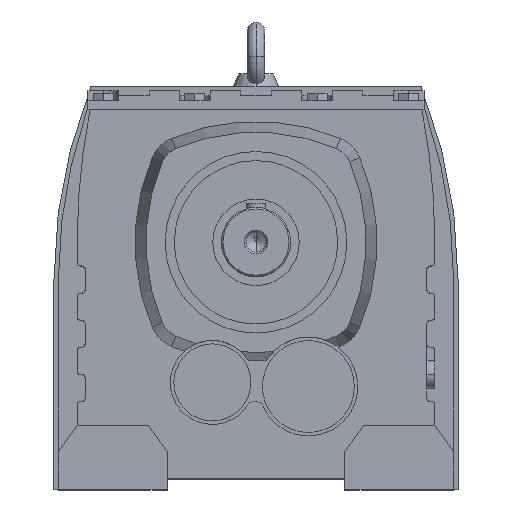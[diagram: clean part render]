
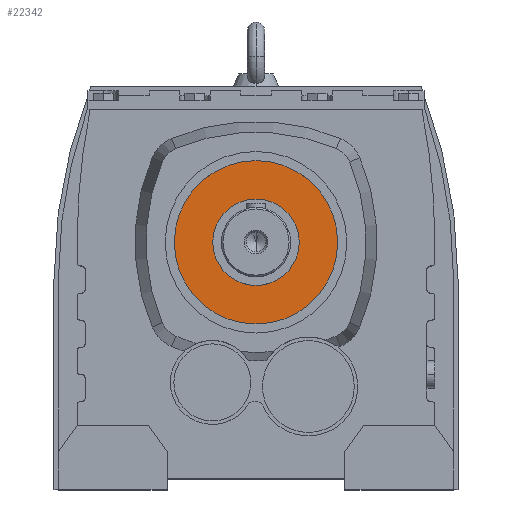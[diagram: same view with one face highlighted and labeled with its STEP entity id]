
A CAD part, top view. The second image highlights one B-rep face of the part: STEP entity #22342.
In plain terms, the highlighted planar face has unit normal (0, 0, 1).
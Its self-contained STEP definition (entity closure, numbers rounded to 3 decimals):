
#22055 = CYLINDRICAL_SURFACE('',#22056,82.688);
#22056 = AXIS2_PLACEMENT_3D('',#22057,#22058,#22059);
#22057 = CARTESIAN_POINT('',(0.,20.4,495.));
#22058 = DIRECTION('',(0.,0.,1.));
#22059 = DIRECTION('',(0.,-1.,0.));
#22085 = CYLINDRICAL_SURFACE('',#22086,82.688);
#22086 = AXIS2_PLACEMENT_3D('',#22087,#22088,#22089);
#22087 = CARTESIAN_POINT('',(0.,20.4,495.));
#22088 = DIRECTION('',(0.,0.,1.));
#22089 = DIRECTION('',(0.,-1.,0.));
#22247 = EDGE_CURVE('',#22248,#22250,#22252,.T.);
#22248 = VERTEX_POINT('',#22249);
#22249 = CARTESIAN_POINT('',(0.,-62.288,341.));
#22250 = VERTEX_POINT('',#22251);
#22251 = CARTESIAN_POINT('',(0.,103.088,341.));
#22252 = SURFACE_CURVE('',#22253,(#22258,#22264),.PCURVE_S1.);
#22253 = CIRCLE('',#22254,82.688);
#22254 = AXIS2_PLACEMENT_3D('',#22255,#22256,#22257);
#22255 = CARTESIAN_POINT('',(0.,20.4,341.));
#22256 = DIRECTION('',(0.,0.,-1.));
#22257 = DIRECTION('',(-1.,0.,0.));
#22258 = PCURVE('',#22085,#22259);
#22259 = DEFINITIONAL_REPRESENTATION('',(#22260),#22263);
#22260 = B_SPLINE_CURVE_WITH_KNOTS('',1,(#22261,#22262),.UNSPECIFIED.,
  .F.,.F.,(2,2),(4.712,7.854),
  .PIECEWISE_BEZIER_KNOTS.);
#22261 = CARTESIAN_POINT('',(6.283,-154.));
#22262 = CARTESIAN_POINT('',(3.142,-154.));
#22263 = ( GEOMETRIC_REPRESENTATION_CONTEXT(2) 
PARAMETRIC_REPRESENTATION_CONTEXT() REPRESENTATION_CONTEXT('2D SPACE',''
  ) );
#22264 = PCURVE('',#22265,#22270);
#22265 = PLANE('',#22266);
#22266 = AXIS2_PLACEMENT_3D('',#22267,#22268,#22269);
#22267 = CARTESIAN_POINT('',(-35.669,7.069,341.));
#22268 = DIRECTION('',(0.,0.,-1.));
#22269 = DIRECTION('',(-1.,0.,0.));
#22270 = DEFINITIONAL_REPRESENTATION('',(#22271),#22275);
#22271 = CIRCLE('',#22272,82.688);
#22272 = AXIS2_PLACEMENT_2D('',#22273,#22274);
#22273 = CARTESIAN_POINT('',(-35.669,13.331));
#22274 = DIRECTION('',(1.,0.));
#22275 = ( GEOMETRIC_REPRESENTATION_CONTEXT(2) 
PARAMETRIC_REPRESENTATION_CONTEXT() REPRESENTATION_CONTEXT('2D SPACE',''
  ) );
#22322 = EDGE_CURVE('',#22250,#22248,#22323,.T.);
#22323 = SURFACE_CURVE('',#22324,(#22329,#22335),.PCURVE_S1.);
#22324 = CIRCLE('',#22325,82.688);
#22325 = AXIS2_PLACEMENT_3D('',#22326,#22327,#22328);
#22326 = CARTESIAN_POINT('',(0.,20.4,341.));
#22327 = DIRECTION('',(0.,0.,-1.));
#22328 = DIRECTION('',(-1.,0.,0.));
#22329 = PCURVE('',#22055,#22330);
#22330 = DEFINITIONAL_REPRESENTATION('',(#22331),#22334);
#22331 = B_SPLINE_CURVE_WITH_KNOTS('',1,(#22332,#22333),.UNSPECIFIED.,
  .F.,.F.,(2,2),(1.571,4.712),
  .PIECEWISE_BEZIER_KNOTS.);
#22332 = CARTESIAN_POINT('',(3.142,-154.));
#22333 = CARTESIAN_POINT('',(0.,-154.));
#22334 = ( GEOMETRIC_REPRESENTATION_CONTEXT(2) 
PARAMETRIC_REPRESENTATION_CONTEXT() REPRESENTATION_CONTEXT('2D SPACE',''
  ) );
#22335 = PCURVE('',#22265,#22336);
#22336 = DEFINITIONAL_REPRESENTATION('',(#22337),#22341);
#22337 = CIRCLE('',#22338,82.688);
#22338 = AXIS2_PLACEMENT_2D('',#22339,#22340);
#22339 = CARTESIAN_POINT('',(-35.669,13.331));
#22340 = DIRECTION('',(1.,0.));
#22341 = ( GEOMETRIC_REPRESENTATION_CONTEXT(2) 
PARAMETRIC_REPRESENTATION_CONTEXT() REPRESENTATION_CONTEXT('2D SPACE',''
  ) );
#22342 = ADVANCED_FACE('',(#22343,#22347),#22265,.F.);
#22343 = FACE_BOUND('',#22344,.T.);
#22344 = EDGE_LOOP('',(#22345,#22346));
#22345 = ORIENTED_EDGE('',*,*,#22247,.F.);
#22346 = ORIENTED_EDGE('',*,*,#22322,.F.);
#22347 = FACE_BOUND('',#22348,.T.);
#22348 = EDGE_LOOP('',(#22349,#22383));
#22349 = ORIENTED_EDGE('',*,*,#22350,.F.);
#22350 = EDGE_CURVE('',#22351,#22353,#22355,.T.);
#22351 = VERTEX_POINT('',#22352);
#22352 = CARTESIAN_POINT('',(0.,-23.35,341.));
#22353 = VERTEX_POINT('',#22354);
#22354 = CARTESIAN_POINT('',(0.,64.15,341.));
#22355 = SURFACE_CURVE('',#22356,(#22361,#22372),.PCURVE_S1.);
#22356 = CIRCLE('',#22357,43.75);
#22357 = AXIS2_PLACEMENT_3D('',#22358,#22359,#22360);
#22358 = CARTESIAN_POINT('',(0.,20.4,341.));
#22359 = DIRECTION('',(0.,0.,1.));
#22360 = DIRECTION('',(-1.,0.,0.));
#22361 = PCURVE('',#22265,#22362);
#22362 = DEFINITIONAL_REPRESENTATION('',(#22363),#22371);
#22363 = ( BOUNDED_CURVE() B_SPLINE_CURVE(2,(#22364,#22365,#22366,#22367
    ,#22368,#22369,#22370),.UNSPECIFIED.,.F.,.F.) 
B_SPLINE_CURVE_WITH_KNOTS((1,2,2,2,2,1),(-2.094,0.,
    2.094,4.189,6.283,8.378),
.UNSPECIFIED.) CURVE() GEOMETRIC_REPRESENTATION_ITEM() 
RATIONAL_B_SPLINE_CURVE((1.,0.5,1.,0.5,1.,0.5,1.)) REPRESENTATION_ITEM(
  '') );
#22364 = CARTESIAN_POINT('',(8.081,13.331));
#22365 = CARTESIAN_POINT('',(8.081,-62.446));
#22366 = CARTESIAN_POINT('',(-57.544,-24.557));
#22367 = CARTESIAN_POINT('',(-123.169,13.331));
#22368 = CARTESIAN_POINT('',(-57.544,51.22));
#22369 = CARTESIAN_POINT('',(8.081,89.109));
#22370 = CARTESIAN_POINT('',(8.081,13.331));
#22371 = ( GEOMETRIC_REPRESENTATION_CONTEXT(2) 
PARAMETRIC_REPRESENTATION_CONTEXT() REPRESENTATION_CONTEXT('2D SPACE',''
  ) );
#22372 = PCURVE('',#22373,#22378);
#22373 = CYLINDRICAL_SURFACE('',#22374,43.75);
#22374 = AXIS2_PLACEMENT_3D('',#22375,#22376,#22377);
#22375 = CARTESIAN_POINT('',(0.,20.4,495.));
#22376 = DIRECTION('',(0.,0.,1.));
#22377 = DIRECTION('',(0.,-1.,0.));
#22378 = DEFINITIONAL_REPRESENTATION('',(#22379),#22382);
#22379 = B_SPLINE_CURVE_WITH_KNOTS('',1,(#22380,#22381),.UNSPECIFIED.,
  .F.,.F.,(2,2),(1.571,4.712),
  .PIECEWISE_BEZIER_KNOTS.);
#22380 = CARTESIAN_POINT('',(0.,-154.));
#22381 = CARTESIAN_POINT('',(3.142,-154.));
#22382 = ( GEOMETRIC_REPRESENTATION_CONTEXT(2) 
PARAMETRIC_REPRESENTATION_CONTEXT() REPRESENTATION_CONTEXT('2D SPACE',''
  ) );
#22383 = ORIENTED_EDGE('',*,*,#22384,.F.);
#22384 = EDGE_CURVE('',#22353,#22351,#22385,.T.);
#22385 = SURFACE_CURVE('',#22386,(#22391,#22402),.PCURVE_S1.);
#22386 = CIRCLE('',#22387,43.75);
#22387 = AXIS2_PLACEMENT_3D('',#22388,#22389,#22390);
#22388 = CARTESIAN_POINT('',(0.,20.4,341.));
#22389 = DIRECTION('',(0.,0.,1.));
#22390 = DIRECTION('',(-1.,0.,0.));
#22391 = PCURVE('',#22265,#22392);
#22392 = DEFINITIONAL_REPRESENTATION('',(#22393),#22401);
#22393 = ( BOUNDED_CURVE() B_SPLINE_CURVE(2,(#22394,#22395,#22396,#22397
    ,#22398,#22399,#22400),.UNSPECIFIED.,.F.,.F.) 
B_SPLINE_CURVE_WITH_KNOTS((1,2,2,2,2,1),(-2.094,0.,
    2.094,4.189,6.283,8.378),
.UNSPECIFIED.) CURVE() GEOMETRIC_REPRESENTATION_ITEM() 
RATIONAL_B_SPLINE_CURVE((1.,0.5,1.,0.5,1.,0.5,1.)) REPRESENTATION_ITEM(
  '') );
#22394 = CARTESIAN_POINT('',(8.081,13.331));
#22395 = CARTESIAN_POINT('',(8.081,-62.446));
#22396 = CARTESIAN_POINT('',(-57.544,-24.557));
#22397 = CARTESIAN_POINT('',(-123.169,13.331));
#22398 = CARTESIAN_POINT('',(-57.544,51.22));
#22399 = CARTESIAN_POINT('',(8.081,89.109));
#22400 = CARTESIAN_POINT('',(8.081,13.331));
#22401 = ( GEOMETRIC_REPRESENTATION_CONTEXT(2) 
PARAMETRIC_REPRESENTATION_CONTEXT() REPRESENTATION_CONTEXT('2D SPACE',''
  ) );
#22402 = PCURVE('',#22403,#22408);
#22403 = CYLINDRICAL_SURFACE('',#22404,43.75);
#22404 = AXIS2_PLACEMENT_3D('',#22405,#22406,#22407);
#22405 = CARTESIAN_POINT('',(0.,20.4,495.));
#22406 = DIRECTION('',(0.,0.,1.));
#22407 = DIRECTION('',(0.,-1.,0.));
#22408 = DEFINITIONAL_REPRESENTATION('',(#22409),#22412);
#22409 = B_SPLINE_CURVE_WITH_KNOTS('',1,(#22410,#22411),.UNSPECIFIED.,
  .F.,.F.,(2,2),(4.712,7.854),
  .PIECEWISE_BEZIER_KNOTS.);
#22410 = CARTESIAN_POINT('',(3.142,-154.));
#22411 = CARTESIAN_POINT('',(6.283,-154.));
#22412 = ( GEOMETRIC_REPRESENTATION_CONTEXT(2) 
PARAMETRIC_REPRESENTATION_CONTEXT() REPRESENTATION_CONTEXT('2D SPACE',''
  ) );
